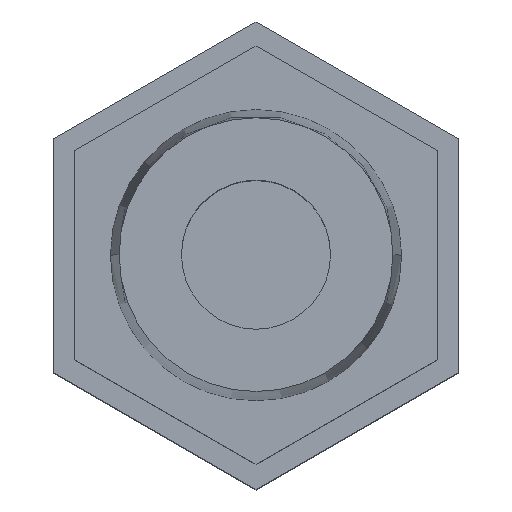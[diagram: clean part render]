
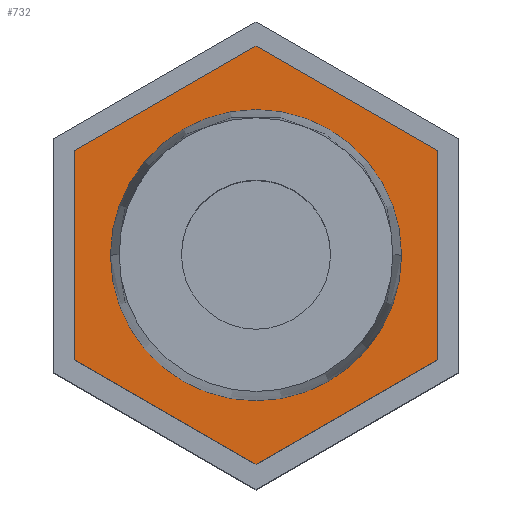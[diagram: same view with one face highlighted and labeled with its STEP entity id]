
A CAD part, top view. The second image highlights one B-rep face of the part: STEP entity #732.
In plain terms, the highlighted planar face has unit normal (0, 0, -1).
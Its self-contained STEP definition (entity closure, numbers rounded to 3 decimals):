
#15=FACE_BOUND('',#109,.T.);
#21=PLANE('',#846);
#78=FACE_OUTER_BOUND('',#108,.T.);
#108=EDGE_LOOP('',(#617,#618,#619,#620,#621,#622));
#109=EDGE_LOOP('',(#623));
#149=CIRCLE('',#847,6.832);
#179=LINE('',#1160,#271);
#180=LINE('',#1162,#272);
#181=LINE('',#1164,#273);
#182=LINE('',#1166,#274);
#183=LINE('',#1168,#275);
#184=LINE('',#1169,#276);
#271=VECTOR('',#938,9.815);
#272=VECTOR('',#939,9.815);
#273=VECTOR('',#940,9.815);
#274=VECTOR('',#941,9.815);
#275=VECTOR('',#942,9.815);
#276=VECTOR('',#943,9.815);
#373=VERTEX_POINT('',#1158);
#374=VERTEX_POINT('',#1159);
#375=VERTEX_POINT('',#1161);
#376=VERTEX_POINT('',#1163);
#377=VERTEX_POINT('',#1165);
#378=VERTEX_POINT('',#1167);
#379=VERTEX_POINT('',#1170);
#495=EDGE_CURVE('',#373,#374,#179,.T.);
#496=EDGE_CURVE('',#374,#375,#180,.T.);
#497=EDGE_CURVE('',#375,#376,#181,.T.);
#498=EDGE_CURVE('',#376,#377,#182,.T.);
#499=EDGE_CURVE('',#377,#378,#183,.T.);
#500=EDGE_CURVE('',#378,#373,#184,.T.);
#501=EDGE_CURVE('',#379,#379,#149,.T.);
#617=ORIENTED_EDGE('',*,*,#495,.T.);
#618=ORIENTED_EDGE('',*,*,#496,.T.);
#619=ORIENTED_EDGE('',*,*,#497,.T.);
#620=ORIENTED_EDGE('',*,*,#498,.T.);
#621=ORIENTED_EDGE('',*,*,#499,.T.);
#622=ORIENTED_EDGE('',*,*,#500,.T.);
#623=ORIENTED_EDGE('',*,*,#501,.T.);
#732=ADVANCED_FACE('',(#78,#15),#21,.T.);
#846=AXIS2_PLACEMENT_3D('',#1157,#936,#937);
#847=AXIS2_PLACEMENT_3D('',#1171,#944,#945);
#936=DIRECTION('center_axis',(0.,0.,-1.));
#937=DIRECTION('ref_axis',(-1.,0.,0.));
#938=DIRECTION('',(-0.866,-0.5,0.));
#939=DIRECTION('',(-0.866,0.5,0.));
#940=DIRECTION('',(0.,1.,0.));
#941=DIRECTION('',(0.866,0.5,0.));
#942=DIRECTION('',(0.866,-0.5,0.));
#943=DIRECTION('',(0.,-1.,0.));
#944=DIRECTION('center_axis',(0.,0.,1.));
#945=DIRECTION('ref_axis',(1.,0.,0.));
#1157=CARTESIAN_POINT('Origin',(0.,-9.933,19.));
#1158=CARTESIAN_POINT('',(8.5,-4.907,19.));
#1159=CARTESIAN_POINT('',(0.,-9.815,19.));
#1160=CARTESIAN_POINT('',(8.5,-4.907,19.));
#1161=CARTESIAN_POINT('',(-8.5,-4.907,19.));
#1162=CARTESIAN_POINT('',(0.,-9.815,19.));
#1163=CARTESIAN_POINT('',(-8.5,4.907,19.));
#1164=CARTESIAN_POINT('',(-8.5,-4.907,19.));
#1165=CARTESIAN_POINT('',(0.,9.815,19.));
#1166=CARTESIAN_POINT('',(-8.5,4.907,19.));
#1167=CARTESIAN_POINT('',(8.5,4.907,19.));
#1168=CARTESIAN_POINT('',(0.,9.815,19.));
#1169=CARTESIAN_POINT('',(8.5,4.907,19.));
#1170=CARTESIAN_POINT('',(6.832,0.,19.));
#1171=CARTESIAN_POINT('Origin',(0.,0.,19.));
